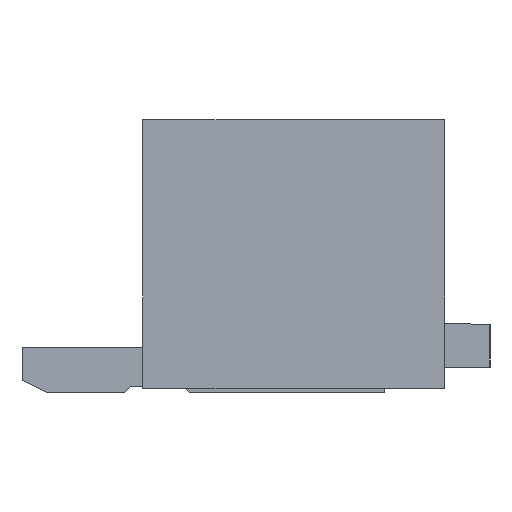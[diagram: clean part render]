
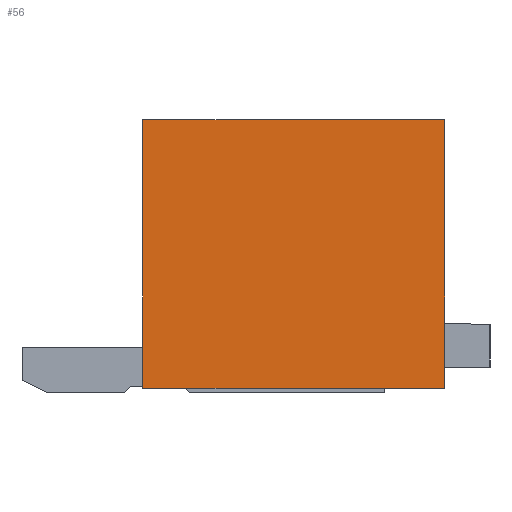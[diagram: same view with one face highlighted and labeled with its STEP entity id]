
A CAD part, left-side view. The second image highlights one B-rep face of the part: STEP entity #56.
In plain terms, the highlighted planar face has unit normal (-1, 0, 0).
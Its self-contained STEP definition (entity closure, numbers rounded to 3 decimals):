
#56=ADVANCED_FACE('',(#564),#310,.T.);
#310=PLANE('',#5120);
#564=FACE_OUTER_BOUND('',#817,.T.);
#817=EDGE_LOOP('',(#1188,#1189,#1190,#1191));
#1188=ORIENTED_EDGE('',*,*,#3016,.T.);
#1189=ORIENTED_EDGE('',*,*,#2994,.T.);
#1190=ORIENTED_EDGE('',*,*,#3080,.F.);
#1191=ORIENTED_EDGE('',*,*,#3023,.T.);
#2519=VERTEX_POINT('',#6626);
#2520=VERTEX_POINT('',#6628);
#2536=VERTEX_POINT('',#6668);
#2544=VERTEX_POINT('',#6686);
#2994=EDGE_CURVE('',#2520,#2519,#3706,.T.);
#3016=EDGE_CURVE('',#2536,#2520,#3728,.T.);
#3023=EDGE_CURVE('',#2544,#2536,#3735,.T.);
#3080=EDGE_CURVE('',#2544,#2519,#3792,.T.);
#3706=LINE('',#6627,#4418);
#3728=LINE('',#6671,#4440);
#3735=LINE('',#6685,#4447);
#3792=LINE('',#6799,#4504);
#4418=VECTOR('',#5389,1.);
#4440=VECTOR('',#5419,1.);
#4447=VECTOR('',#5428,1.);
#4504=VECTOR('',#5487,1.);
#5120=AXIS2_PLACEMENT_3D('',#6800,#5488,#5489);
#5389=DIRECTION('',(0.,0.,1.));
#5419=DIRECTION('',(0.,-1.,0.));
#5428=DIRECTION('',(0.,0.,-1.));
#5487=DIRECTION('',(0.,-1.,0.));
#5488=DIRECTION('',(-1.,0.,0.));
#5489=DIRECTION('',(0.,0.,1.));
#6626=CARTESIAN_POINT('',(-20.9,2.4,3.625));
#6627=CARTESIAN_POINT('',(-20.9,2.4,-40.43));
#6628=CARTESIAN_POINT('',(-20.9,2.4,-0.825));
#6668=CARTESIAN_POINT('',(-20.9,7.4,-0.825));
#6671=CARTESIAN_POINT('',(-20.9,7.4,-0.825));
#6685=CARTESIAN_POINT('',(-20.9,7.4,3.625));
#6686=CARTESIAN_POINT('',(-20.9,7.4,3.625));
#6799=CARTESIAN_POINT('',(-20.9,7.4,3.625));
#6800=CARTESIAN_POINT('',(-20.9,7.4,3.625));
